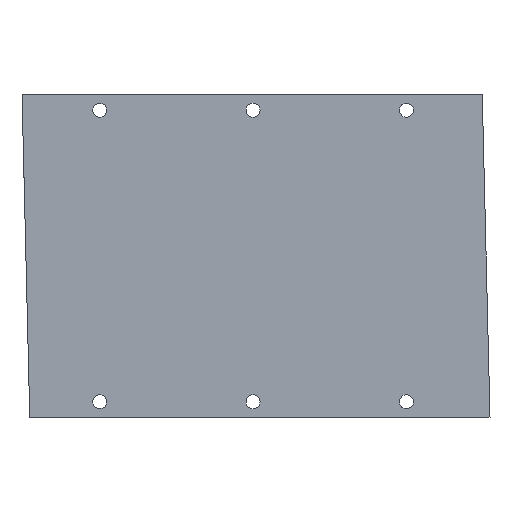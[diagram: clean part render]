
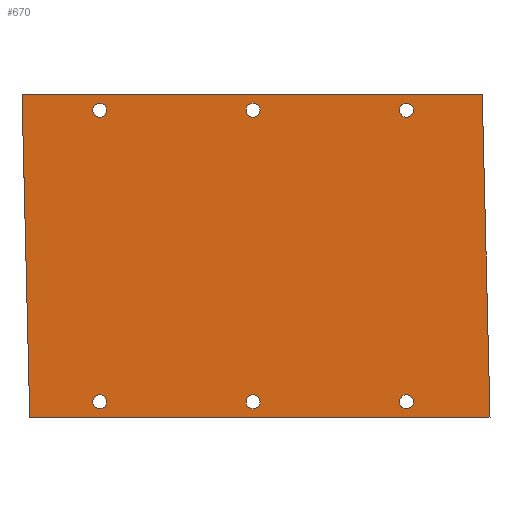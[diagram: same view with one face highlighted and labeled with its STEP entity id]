
A CAD part, front view. The second image highlights one B-rep face of the part: STEP entity #670.
In plain terms, the highlighted planar face has unit normal (0, -1, 0).
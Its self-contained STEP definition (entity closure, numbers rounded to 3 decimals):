
#1 = FACE_BOUND ( 'NONE', #664, .T. ) ;
#2 = FACE_BOUND ( 'NONE', #633, .T. ) ;
#3 = FACE_BOUND ( 'NONE', #1015, .T. ) ;
#9 = FACE_BOUND ( 'NONE', #642, .T. ) ;
#13 = FACE_BOUND ( 'NONE', #661, .T. ) ;
#22 = FACE_OUTER_BOUND ( 'NONE', #971, .T. ) ;
#24 = DIRECTION ( 'NONE',  ( 0., 0., 1. ) ) ;
#27 = DIRECTION ( 'NONE',  ( 0., 1., 0. ) ) ;
#37 = CARTESIAN_POINT ( 'NONE',  ( 554.645, 0., -71.289 ) ) ;
#48 = CARTESIAN_POINT ( 'NONE',  ( 819.147, 0., -134.289 ) ) ;
#51 = AXIS2_PLACEMENT_3D ( 'NONE', #37, #27, #24 ) ;
#60 = PLANE ( 'NONE',  #51 ) ;
#94 = CIRCLE ( 'NONE', #102, 2.75 ) ;
#96 = DIRECTION ( 'NONE',  ( 0., 1., 0. ) ) ;
#97 = DIRECTION ( 'NONE',  ( 0., 0., 1. ) ) ;
#101 = CARTESIAN_POINT ( 'NONE',  ( 666.479, 0., -128.289 ) ) ;
#102 = AXIS2_PLACEMENT_3D ( 'NONE', #101, #96, #97 ) ;
#121 = AXIS2_PLACEMENT_3D ( 'NONE', #184, #138, #137 ) ;
#122 = FACE_BOUND ( 'NONE', #1020, .T. ) ;
#125 = CARTESIAN_POINT ( 'NONE',  ( 639.147, 0., -134.289 ) ) ;
#126 = CIRCLE ( 'NONE', #135, 2.75 ) ;
#127 = CIRCLE ( 'NONE', #121, 2.75 ) ;
#133 = DIRECTION ( 'NONE',  ( 0., 0., 1. ) ) ;
#134 = DIRECTION ( 'NONE',  ( 0., 1., 0. ) ) ;
#135 = AXIS2_PLACEMENT_3D ( 'NONE', #181, #134, #133 ) ;
#137 = DIRECTION ( 'NONE',  ( 0., 0., 1. ) ) ;
#138 = DIRECTION ( 'NONE',  ( 0., 1., 0. ) ) ;
#181 = CARTESIAN_POINT ( 'NONE',  ( 726.479, 0., -128.289 ) ) ;
#184 = CARTESIAN_POINT ( 'NONE',  ( 726.479, 0., -14.289 ) ) ;
#222 = CARTESIAN_POINT ( 'NONE',  ( 786.479, 0., -14.289 ) ) ;
#223 = DIRECTION ( 'NONE',  ( 0., 0., 1. ) ) ;
#225 = CIRCLE ( 'NONE', #230, 2.75 ) ;
#230 = AXIS2_PLACEMENT_3D ( 'NONE', #222, #237, #223 ) ;
#237 = DIRECTION ( 'NONE',  ( 0., 1., 0. ) ) ;
#330 = CARTESIAN_POINT ( 'NONE',  ( 636.109, 0., -8.289 ) ) ;
#335 = LINE ( 'NONE', #340, #343 ) ;
#340 = CARTESIAN_POINT ( 'NONE',  ( 817.475, 0., -64.953 ) ) ;
#342 = DIRECTION ( 'NONE',  ( -0.024, 0., 1. ) ) ;
#343 = VECTOR ( 'NONE', #342, 1000. ) ;
#344 = CARTESIAN_POINT ( 'NONE',  ( 816.109, 0., -8.289 ) ) ;
#441 = VERTEX_POINT ( 'NONE', #1362 ) ;
#454 = VERTEX_POINT ( 'NONE', #1343 ) ;
#455 = EDGE_CURVE ( 'NONE', #602, #462, #1377, .T. ) ;
#459 = EDGE_CURVE ( 'NONE', #600, #454, #1351, .T. ) ;
#462 = VERTEX_POINT ( 'NONE', #1283 ) ;
#466 = VERTEX_POINT ( 'NONE', #1293 ) ;
#469 = EDGE_CURVE ( 'NONE', #441, #466, #1290, .T. ) ;
#508 = EDGE_CURVE ( 'NONE', #513, #514, #1231, .T. ) ;
#513 = VERTEX_POINT ( 'NONE', #1358 ) ;
#514 = VERTEX_POINT ( 'NONE', #1305 ) ;
#548 = EDGE_CURVE ( 'NONE', #587, #586, #1822, .T. ) ;
#559 = VERTEX_POINT ( 'NONE', #1767 ) ;
#568 = VERTEX_POINT ( 'NONE', #769 ) ;
#579 = EDGE_CURVE ( 'NONE', #568, #559, #2786, .T. ) ;
#586 = VERTEX_POINT ( 'NONE', #2766 ) ;
#587 = VERTEX_POINT ( 'NONE', #2779 ) ;
#600 = VERTEX_POINT ( 'NONE', #2780 ) ;
#602 = VERTEX_POINT ( 'NONE', #2806 ) ;
#633 = EDGE_LOOP ( 'NONE', ( #641, #639 ) ) ;
#636 = EDGE_CURVE ( 'NONE', #965, #735, #2864, .T. ) ;
#638 = ORIENTED_EDGE ( 'NONE', *, *, #992, .T. ) ;
#639 = ORIENTED_EDGE ( 'NONE', *, *, #469, .T. ) ;
#640 = EDGE_CURVE ( 'NONE', #466, #441, #2857, .T. ) ;
#641 = ORIENTED_EDGE ( 'NONE', *, *, #640, .T. ) ;
#642 = EDGE_LOOP ( 'NONE', ( #643, #663 ) ) ;
#643 = ORIENTED_EDGE ( 'NONE', *, *, #660, .T. ) ;
#659 = EDGE_CURVE ( 'NONE', #454, #600, #127, .T. ) ;
#660 = EDGE_CURVE ( 'NONE', #559, #568, #126, .T. ) ;
#661 = EDGE_LOOP ( 'NONE', ( #638, #874 ) ) ;
#662 = ORIENTED_EDGE ( 'NONE', *, *, #949, .T. ) ;
#663 = ORIENTED_EDGE ( 'NONE', *, *, #579, .T. ) ;
#664 = EDGE_LOOP ( 'NONE', ( #662, #991 ) ) ;
#668 = ORIENTED_EDGE ( 'NONE', *, *, #459, .T. ) ;
#669 = VERTEX_POINT ( 'NONE', #125 ) ;
#670 = ADVANCED_FACE ( 'NONE', ( #122, #2, #3, #9, #13, #1, #22 ), #60, .F. ) ;
#671 = ORIENTED_EDGE ( 'NONE', *, *, #455, .T. ) ;
#685 = VERTEX_POINT ( 'NONE', #48 ) ;
#733 = EDGE_CURVE ( 'NONE', #685, #735, #335, .T. ) ;
#735 = VERTEX_POINT ( 'NONE', #344 ) ;
#769 = CARTESIAN_POINT ( 'NONE',  ( 726.479, 0., -131.039 ) ) ;
#805 = ORIENTED_EDGE ( 'NONE', *, *, #659, .T. ) ;
#806 = EDGE_CURVE ( 'NONE', #669, #685, #1565, .T. ) ;
#857 = ORIENTED_EDGE ( 'NONE', *, *, #806, .T. ) ;
#858 = ORIENTED_EDGE ( 'NONE', *, *, #969, .T. ) ;
#873 = ORIENTED_EDGE ( 'NONE', *, *, #733, .T. ) ;
#874 = ORIENTED_EDGE ( 'NONE', *, *, #548, .T. ) ;
#949 = EDGE_CURVE ( 'NONE', #514, #513, #94, .T. ) ;
#965 = VERTEX_POINT ( 'NONE', #330 ) ;
#969 = EDGE_CURVE ( 'NONE', #462, #602, #225, .T. ) ;
#971 = EDGE_LOOP ( 'NONE', ( #873, #1017, #1018, #857 ) ) ;
#991 = ORIENTED_EDGE ( 'NONE', *, *, #508, .T. ) ;
#992 = EDGE_CURVE ( 'NONE', #586, #587, #1472, .T. ) ;
#1012 = EDGE_CURVE ( 'NONE', #669, #965, #1458, .T. ) ;
#1015 = EDGE_LOOP ( 'NONE', ( #805, #668 ) ) ;
#1017 = ORIENTED_EDGE ( 'NONE', *, *, #636, .F. ) ;
#1018 = ORIENTED_EDGE ( 'NONE', *, *, #1012, .F. ) ;
#1020 = EDGE_LOOP ( 'NONE', ( #858, #671 ) ) ;
#1231 = CIRCLE ( 'NONE', #1370, 2.75 ) ;
#1245 = DIRECTION ( 'NONE',  ( 0., 1., 0. ) ) ;
#1277 = CARTESIAN_POINT ( 'NONE',  ( 786.479, 0., -128.289 ) ) ;
#1282 = DIRECTION ( 'NONE',  ( 0., 1., 0. ) ) ;
#1283 = CARTESIAN_POINT ( 'NONE',  ( 786.479, 0., -11.539 ) ) ;
#1290 = CIRCLE ( 'NONE', #1420, 2.75 ) ;
#1292 = DIRECTION ( 'NONE',  ( 0., 0., 1. ) ) ;
#1293 = CARTESIAN_POINT ( 'NONE',  ( 786.479, 0., -125.539 ) ) ;
#1305 = CARTESIAN_POINT ( 'NONE',  ( 666.479, 0., -125.539 ) ) ;
#1306 = DIRECTION ( 'NONE',  ( 0., 0., 1. ) ) ;
#1307 = DIRECTION ( 'NONE',  ( 0., 1., 0. ) ) ;
#1311 = CARTESIAN_POINT ( 'NONE',  ( 666.479, 0., -128.289 ) ) ;
#1343 = CARTESIAN_POINT ( 'NONE',  ( 726.479, 0., -11.539 ) ) ;
#1351 = CIRCLE ( 'NONE', #1371, 2.75 ) ;
#1358 = CARTESIAN_POINT ( 'NONE',  ( 666.479, 0., -131.039 ) ) ;
#1362 = CARTESIAN_POINT ( 'NONE',  ( 786.479, 0., -131.039 ) ) ;
#1368 = CARTESIAN_POINT ( 'NONE',  ( 726.479, 0., -14.289 ) ) ;
#1370 = AXIS2_PLACEMENT_3D ( 'NONE', #1311, #1307, #1306 ) ;
#1371 = AXIS2_PLACEMENT_3D ( 'NONE', #1368, #1245, #1292 ) ;
#1372 = DIRECTION ( 'NONE',  ( 0., 0., 1. ) ) ;
#1373 = DIRECTION ( 'NONE',  ( 0., 1., 0. ) ) ;
#1374 = CARTESIAN_POINT ( 'NONE',  ( 786.479, 0., -14.289 ) ) ;
#1377 = CIRCLE ( 'NONE', #1382, 2.75 ) ;
#1382 = AXIS2_PLACEMENT_3D ( 'NONE', #1374, #1373, #1372 ) ;
#1419 = DIRECTION ( 'NONE',  ( 0., 0., 1. ) ) ;
#1420 = AXIS2_PLACEMENT_3D ( 'NONE', #1277, #1282, #1419 ) ;
#1457 = CARTESIAN_POINT ( 'NONE',  ( 637.58, 0., -69.29 ) ) ;
#1458 = LINE ( 'NONE', #1457, #1469 ) ;
#1459 = CARTESIAN_POINT ( 'NONE',  ( 666.479, 0., -14.289 ) ) ;
#1460 = AXIS2_PLACEMENT_3D ( 'NONE', #1459, #1478, #1477 ) ;
#1468 = DIRECTION ( 'NONE',  ( -0.024, 0., 1. ) ) ;
#1469 = VECTOR ( 'NONE', #1468, 1000. ) ;
#1472 = CIRCLE ( 'NONE', #1460, 2.75 ) ;
#1477 = DIRECTION ( 'NONE',  ( 0., 0., 1. ) ) ;
#1478 = DIRECTION ( 'NONE',  ( 0., 1., 0. ) ) ;
#1500 = CARTESIAN_POINT ( 'NONE',  ( 554.645, 0., -134.289 ) ) ;
#1539 = DIRECTION ( 'NONE',  ( 1., 0., 0. ) ) ;
#1540 = VECTOR ( 'NONE', #1539, 1000. ) ;
#1565 = LINE ( 'NONE', #1500, #1540 ) ;
#1767 = CARTESIAN_POINT ( 'NONE',  ( 726.479, 0., -125.539 ) ) ;
#1792 = DIRECTION ( 'NONE',  ( 0., 0., 1. ) ) ;
#1793 = DIRECTION ( 'NONE',  ( 0., 1., 0. ) ) ;
#1794 = CARTESIAN_POINT ( 'NONE',  ( 666.479, 0., -14.289 ) ) ;
#1812 = AXIS2_PLACEMENT_3D ( 'NONE', #1794, #1793, #1792 ) ;
#1822 = CIRCLE ( 'NONE', #1812, 2.75 ) ;
#2764 = AXIS2_PLACEMENT_3D ( 'NONE', #2823, #2814, #2769 ) ;
#2766 = CARTESIAN_POINT ( 'NONE',  ( 666.479, 0., -11.539 ) ) ;
#2769 = DIRECTION ( 'NONE',  ( 0., 0., 1. ) ) ;
#2779 = CARTESIAN_POINT ( 'NONE',  ( 666.479, 0., -17.039 ) ) ;
#2780 = CARTESIAN_POINT ( 'NONE',  ( 726.479, 0., -17.039 ) ) ;
#2786 = CIRCLE ( 'NONE', #2764, 2.75 ) ;
#2806 = CARTESIAN_POINT ( 'NONE',  ( 786.479, 0., -17.039 ) ) ;
#2814 = DIRECTION ( 'NONE',  ( 0., 1., 0. ) ) ;
#2823 = CARTESIAN_POINT ( 'NONE',  ( 726.479, 0., -128.289 ) ) ;
#2834 = AXIS2_PLACEMENT_3D ( 'NONE', #2856, #2855, #2854 ) ;
#2854 = DIRECTION ( 'NONE',  ( 0., 0., 1. ) ) ;
#2855 = DIRECTION ( 'NONE',  ( 0., 1., 0. ) ) ;
#2856 = CARTESIAN_POINT ( 'NONE',  ( 786.479, 0., -128.289 ) ) ;
#2857 = CIRCLE ( 'NONE', #2834, 2.75 ) ;
#2858 = DIRECTION ( 'NONE',  ( 1., 0., 0. ) ) ;
#2859 = VECTOR ( 'NONE', #2858, 1000. ) ;
#2860 = CARTESIAN_POINT ( 'NONE',  ( 554.645, 0., -8.289 ) ) ;
#2864 = LINE ( 'NONE', #2860, #2859 ) ;
